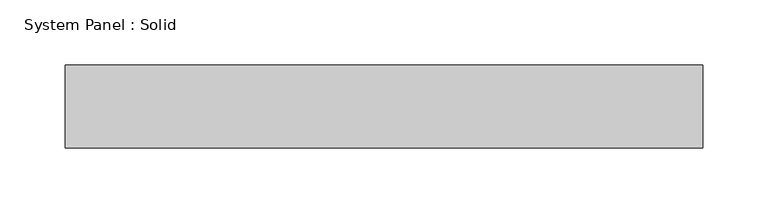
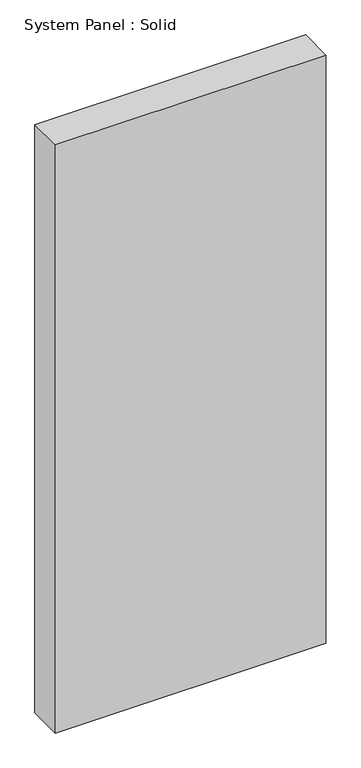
"""IFC4 building model written with IfcOpenShell, lengths in millimetres: plate geometry, System Panel : Solid."""

from ifc_helpers import new_model, si_unit, origin, origin_with_axes, place, context, project, spatial, polyline, outline, extrude, source, transform, mapped, element, save


def system_panel_solid_b759d50d(model_context):
    return source(origin(), model_context, "Body", "SweptSolid", [
        extrude(outline(polyline([(244.475, -44.45), (-244.475, -44.45), (-244.475, 19.05), (244.475, 19.05), (244.475, -44.45)])), origin_with_axes(), (0.0, 0.0, 1.0), 1123.95),
    ])


if __name__ == "__main__":
    model = new_model("IFC4")
    model_context = context("Model", 3, world=origin())
    ifc_project = project(units=[si_unit("LENGTHUNIT", "METRE", prefix="MILLI")], contexts=[model_context])
    site = spatial("IfcSite", under=ifc_project)
    building = spatial("IfcBuilding", under=site)
    placement = place(None, origin())
    system_panel_solid_shape = system_panel_solid_b759d50d(model_context)
    element("IfcPlate", 1, ObjectType="System Panel : Solid", at=placement, inside=building, context=model_context, shape_type="MappedRepresentation", body=[
        mapped(system_panel_solid_shape, transform((0.0, 0.0, 0.0), x_axis=(1.0, 0.0, 0.0), y_axis=(0.0, 1.0, 0.0), z_axis=(0.0, 0.0, 1.0))),
    ])
    save(model, "model.ifc")
